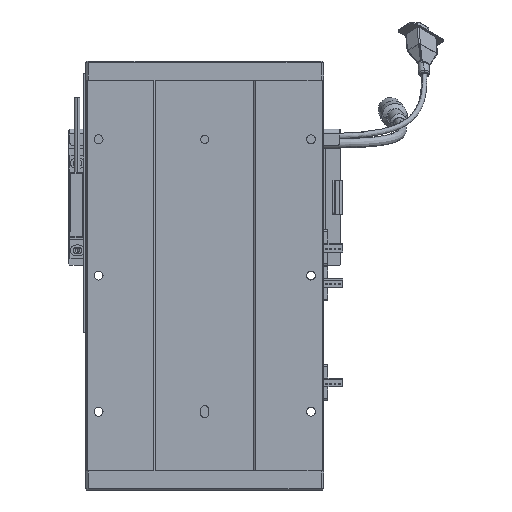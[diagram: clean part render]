
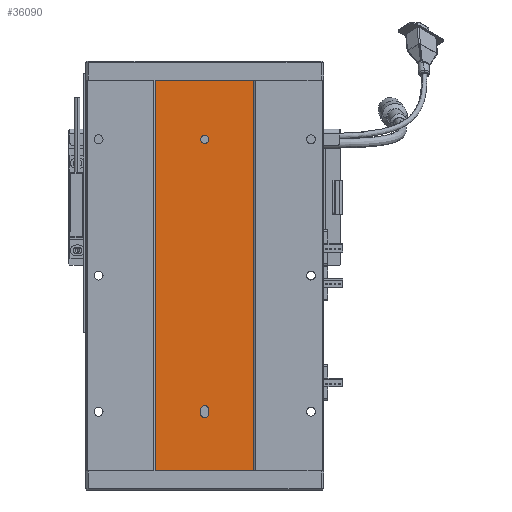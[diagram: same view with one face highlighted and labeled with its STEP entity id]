
A CAD part, front view. The second image highlights one B-rep face of the part: STEP entity #36090.
In plain terms, the highlighted planar face has unit normal (0, -1, 0).
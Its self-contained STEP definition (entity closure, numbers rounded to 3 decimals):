
#963 = EDGE_CURVE ( 'NONE', #42826, #32726, #52495, .T. ) ;
#1647 = CARTESIAN_POINT ( 'NONE',  ( 3244.748, 1415.701, 0. ) ) ;
#3409 = EDGE_CURVE ( 'NONE', #32726, #42826, #57020, .T. ) ;
#3521 = EDGE_CURVE ( 'NONE', #33955, #28626, #18919, .T. ) ;
#3523 = VERTEX_POINT ( 'NONE', #66626 ) ;
#4051 = DIRECTION ( 'NONE',  ( 0., -1., 0. ) ) ;
#6494 = EDGE_CURVE ( 'NONE', #57819, #37962, #25199, .T. ) ;
#6587 = ORIENTED_EDGE ( 'NONE', *, *, #18835, .F. ) ;
#9510 = CARTESIAN_POINT ( 'NONE',  ( 3277.529, 1415.701, 42. ) ) ;
#9722 = EDGE_CURVE ( 'NONE', #28626, #25282, #45555, .T. ) ;
#10564 = DIRECTION ( 'NONE',  ( 0., 1., 0. ) ) ;
#10617 = AXIS2_PLACEMENT_3D ( 'NONE', #14630, #65638, #34592 ) ;
#11023 = CARTESIAN_POINT ( 'NONE',  ( 3244.748, 1415.701, 287. ) ) ;
#11166 = VERTEX_POINT ( 'NONE', #52068 ) ;
#11401 = VECTOR ( 'NONE', #36150, 1000. ) ;
#13602 = DIRECTION ( 'NONE',  ( 0., 0., 1. ) ) ;
#13838 = DIRECTION ( 'NONE',  ( 0., -1., 0. ) ) ;
#14630 = CARTESIAN_POINT ( 'NONE',  ( 3280.529, 1415.701, 42. ) ) ;
#16005 = EDGE_LOOP ( 'NONE', ( #41203, #55658, #59506, #6587, #65946 ) ) ;
#16951 = LINE ( 'NONE', #66357, #35643 ) ;
#17932 = CARTESIAN_POINT ( 'NONE',  ( 3283.529, 1415.701, 45. ) ) ;
#17967 = EDGE_CURVE ( 'NONE', #11166, #33955, #16951, .T. ) ;
#18245 = EDGE_CURVE ( 'NONE', #26109, #11166, #18515, .T. ) ;
#18515 = CIRCLE ( 'NONE', #22755, 3. ) ;
#18835 = EDGE_CURVE ( 'NONE', #25282, #26109, #35512, .T. ) ;
#18919 = CIRCLE ( 'NONE', #60780, 3. ) ;
#19434 = FACE_BOUND ( 'NONE', #16005, .T. ) ;
#22334 = ORIENTED_EDGE ( 'NONE', *, *, #29780, .T. ) ;
#22678 = ORIENTED_EDGE ( 'NONE', *, *, #57368, .T. ) ;
#22723 = ORIENTED_EDGE ( 'NONE', *, *, #6494, .F. ) ;
#22755 = AXIS2_PLACEMENT_3D ( 'NONE', #33020, #58160, #27123 ) ;
#22807 = CARTESIAN_POINT ( 'NONE',  ( 3316.311, 1415.701, 287. ) ) ;
#23445 = LINE ( 'NONE', #1647, #47713 ) ;
#23556 = CARTESIAN_POINT ( 'NONE',  ( 3244.748, 1415.701, 287. ) ) ;
#25199 = LINE ( 'NONE', #57653, #11401 ) ;
#25282 = VERTEX_POINT ( 'NONE', #54420 ) ;
#25833 = LINE ( 'NONE', #54255, #26624 ) ;
#26109 = VERTEX_POINT ( 'NONE', #49404 ) ;
#26624 = VECTOR ( 'NONE', #39075, 1000. ) ;
#26749 = FACE_OUTER_BOUND ( 'NONE', #38598, .T. ) ;
#27123 = DIRECTION ( 'NONE',  ( 0., 0., -1. ) ) ;
#27256 = AXIS2_PLACEMENT_3D ( 'NONE', #29294, #13838, #50097 ) ;
#28626 = VERTEX_POINT ( 'NONE', #59621 ) ;
#29294 = CARTESIAN_POINT ( 'NONE',  ( 3280.529, 1415.701, 243.5 ) ) ;
#29780 = EDGE_CURVE ( 'NONE', #3523, #55557, #23445, .T. ) ;
#30726 = CARTESIAN_POINT ( 'NONE',  ( 3316.311, 1415.701, 0. ) ) ;
#32671 = CARTESIAN_POINT ( 'NONE',  ( 3280.529, 1415.701, 240.5 ) ) ;
#32726 = VERTEX_POINT ( 'NONE', #32671 ) ;
#33020 = CARTESIAN_POINT ( 'NONE',  ( 3280.529, 1415.701, 45. ) ) ;
#33393 = LINE ( 'NONE', #23556, #34179 ) ;
#33789 = EDGE_LOOP ( 'NONE', ( #43278, #64055 ) ) ;
#33879 = VECTOR ( 'NONE', #13602, 1000. ) ;
#33955 = VERTEX_POINT ( 'NONE', #9510 ) ;
#34179 = VECTOR ( 'NONE', #59581, 1000. ) ;
#34592 = DIRECTION ( 'NONE',  ( 0., 0., -1. ) ) ;
#35512 = LINE ( 'NONE', #17932, #33879 ) ;
#35643 = VECTOR ( 'NONE', #50476, 1000. ) ;
#35805 = CARTESIAN_POINT ( 'NONE',  ( 3280.529, 1415.701, 42. ) ) ;
#36090 = ADVANCED_FACE ( 'NONE', ( #19434, #37271, #26749 ), #36864, .F. ) ;
#36150 = DIRECTION ( 'NONE',  ( 1., 0., 0. ) ) ;
#36864 = PLANE ( 'NONE',  #51226 ) ;
#37271 = FACE_BOUND ( 'NONE', #33789, .T. ) ;
#37962 = VERTEX_POINT ( 'NONE', #22807 ) ;
#38598 = EDGE_LOOP ( 'NONE', ( #22334, #64135, #22723, #22678 ) ) ;
#39075 = DIRECTION ( 'NONE',  ( 0., 0., -1. ) ) ;
#39421 = DIRECTION ( 'NONE',  ( 0., 0., -1. ) ) ;
#40524 = CARTESIAN_POINT ( 'NONE',  ( 3280.529, 1415.701, 246.5 ) ) ;
#41203 = ORIENTED_EDGE ( 'NONE', *, *, #3521, .F. ) ;
#42826 = VERTEX_POINT ( 'NONE', #40524 ) ;
#43278 = ORIENTED_EDGE ( 'NONE', *, *, #3409, .F. ) ;
#45058 = CARTESIAN_POINT ( 'NONE',  ( 3280.529, 1415.701, 243.5 ) ) ;
#45555 = CIRCLE ( 'NONE', #10617, 3. ) ;
#47268 = DIRECTION ( 'NONE',  ( 0., 0., 1. ) ) ;
#47713 = VECTOR ( 'NONE', #64424, 1000. ) ;
#49404 = CARTESIAN_POINT ( 'NONE',  ( 3283.529, 1415.701, 45. ) ) ;
#50097 = DIRECTION ( 'NONE',  ( 0., 0., -1. ) ) ;
#50476 = DIRECTION ( 'NONE',  ( 0., 0., -1. ) ) ;
#51226 = AXIS2_PLACEMENT_3D ( 'NONE', #11023, #10564, #47268 ) ;
#52068 = CARTESIAN_POINT ( 'NONE',  ( 3277.529, 1415.701, 45. ) ) ;
#52495 = CIRCLE ( 'NONE', #27256, 3. ) ;
#54209 = AXIS2_PLACEMENT_3D ( 'NONE', #45058, #4051, #39421 ) ;
#54255 = CARTESIAN_POINT ( 'NONE',  ( 3316.311, 1415.701, 287. ) ) ;
#54420 = CARTESIAN_POINT ( 'NONE',  ( 3283.529, 1415.701, 42. ) ) ;
#55557 = VERTEX_POINT ( 'NONE', #30726 ) ;
#55658 = ORIENTED_EDGE ( 'NONE', *, *, #17967, .F. ) ;
#57020 = CIRCLE ( 'NONE', #54209, 3. ) ;
#57368 = EDGE_CURVE ( 'NONE', #57819, #3523, #33393, .T. ) ;
#57653 = CARTESIAN_POINT ( 'NONE',  ( 3244.748, 1415.701, 287. ) ) ;
#57819 = VERTEX_POINT ( 'NONE', #66505 ) ;
#58160 = DIRECTION ( 'NONE',  ( 0., -1., 0. ) ) ;
#59465 = EDGE_CURVE ( 'NONE', #37962, #55557, #25833, .T. ) ;
#59506 = ORIENTED_EDGE ( 'NONE', *, *, #18245, .F. ) ;
#59581 = DIRECTION ( 'NONE',  ( 0., 0., -1. ) ) ;
#59621 = CARTESIAN_POINT ( 'NONE',  ( 3280.529, 1415.701, 39. ) ) ;
#60780 = AXIS2_PLACEMENT_3D ( 'NONE', #35805, #62075, #61625 ) ;
#61625 = DIRECTION ( 'NONE',  ( 0., 0., -1. ) ) ;
#62075 = DIRECTION ( 'NONE',  ( 0., -1., 0. ) ) ;
#64055 = ORIENTED_EDGE ( 'NONE', *, *, #963, .F. ) ;
#64135 = ORIENTED_EDGE ( 'NONE', *, *, #59465, .F. ) ;
#64424 = DIRECTION ( 'NONE',  ( 1., 0., 0. ) ) ;
#65638 = DIRECTION ( 'NONE',  ( 0., -1., 0. ) ) ;
#65946 = ORIENTED_EDGE ( 'NONE', *, *, #9722, .F. ) ;
#66357 = CARTESIAN_POINT ( 'NONE',  ( 3277.529, 1415.701, 45. ) ) ;
#66505 = CARTESIAN_POINT ( 'NONE',  ( 3244.748, 1415.701, 287. ) ) ;
#66626 = CARTESIAN_POINT ( 'NONE',  ( 3244.748, 1415.701, 0. ) ) ;
